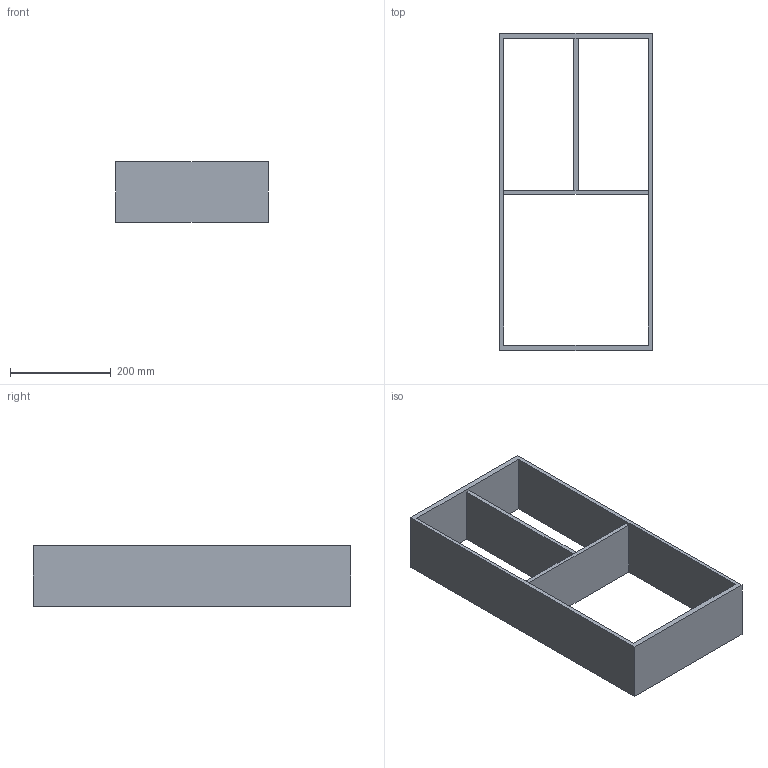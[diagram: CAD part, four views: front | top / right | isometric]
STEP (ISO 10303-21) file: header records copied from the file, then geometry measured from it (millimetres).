
FILE_DESCRIPTION (( 'STEP AP214' ), '1' );
FILE_NAME ('Vario Multi H120 NL650_B400_19 mm_Alu-Alu.step', '2010-10-08T09:48:20', ( 'grass' ), ( '' ), 'SwSTEP 2.0', 'SolidWorks 2010', '' );
FILE_SCHEMA (( 'AUTOMOTIVE_DESIGN' ));
Length unit declared in the file: millimetre
Products named in the file (1): Vario Multi H120 NL650_B400_19 mm_Alu-Alu
Bounding box: 302 x 629 x 120 mm (x, y, z)
Volume: 2496850.8 mm3; surface area: 609730.3 mm2
Topology: 1 solids, 1 shells, 18 faces, 48 edges, 32 vertices
Faces by surface type: plane 18
Entity records: 598 total; most frequent: CARTESIAN_POINT 99, ORIENTED_EDGE 96, DIRECTION 86, EDGE_CURVE 48, VECTOR 48, LINE 48, VERTEX_POINT 32, EDGE_LOOP 24
